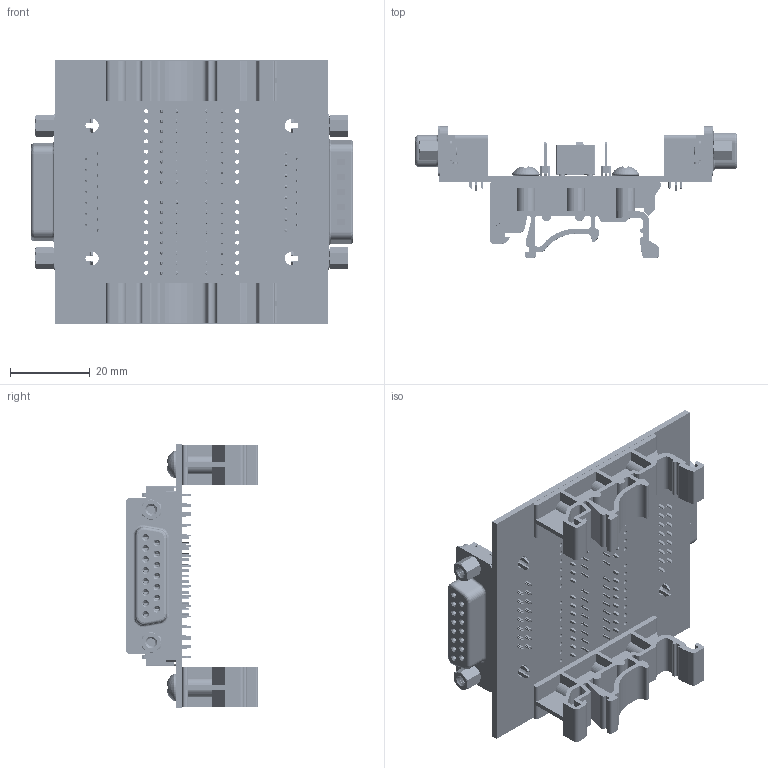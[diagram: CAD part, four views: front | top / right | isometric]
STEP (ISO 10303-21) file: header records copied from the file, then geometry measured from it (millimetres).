
FILE_DESCRIPTION (( 'STEP AP214' ), '1' );
FILE_NAME ('btsd15-r-din_rev_a.step', '2021-11-05T20:02:10', ( '' ), ( '' ), 'SwSTEP 2.0', 'SolidWorks 2018', '' );
FILE_SCHEMA (( 'AUTOMOTIVE_DESIGN' ));
Length unit declared in the file: inch
Products named in the file (8): single row header- 8 position; Male Right Angle 15 Pin; Female Right Angle 15 Pin; dinm01; btsd15-r-din_rev_a; BTSD15_PCB; Screw_SCSMPP-6-0.375_90184A127; DIP Switch 8 pin
Assembly tree (15 placements, depth 2):
  btsd15-r-din_rev_a
    BTSD15_PCB
    Female Right Angle 15 Pin
    Male Right Angle 15 Pin
    DIP Switch 8 pin  x2
    single row header- 8 position  x4
    dinm01  x2
    Screw_SCSMPP-6-0.375_90184A127  x4
Bounding box: 80.79 x 33.08 x 66.04 mm (x, y, z)
Volume: 22832.7 mm3; surface area: 44371 mm2
Topology: 413 solids, 413 shells, 14151 faces, 35546 edges, 22470 vertices
Faces by surface type: plane 7427, bspline 3847, cylinder 2634, cone 220, torus 15, sphere 8
Entity records: 676818 total; most frequent: CARTESIAN_POINT 266220, ORIENTED_EDGE 58434, DIRECTION 43436, EDGE_CURVE 29217, VERTEX_POINT 18461, VECTOR 18060, LINE 18060, AXIS2_PLACEMENT_3D 12688
